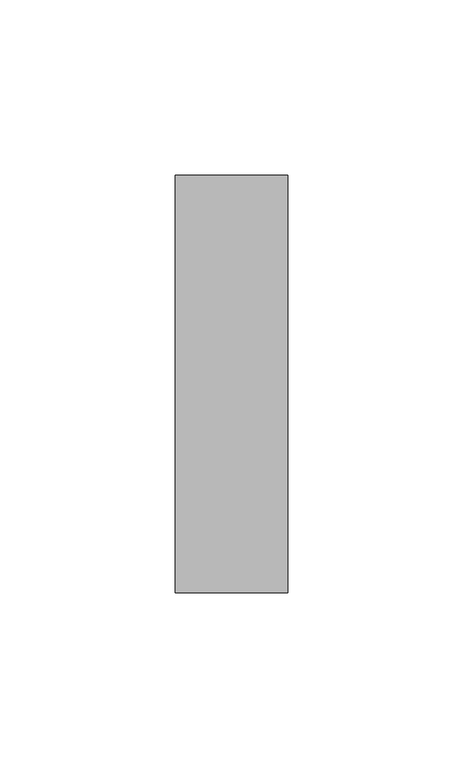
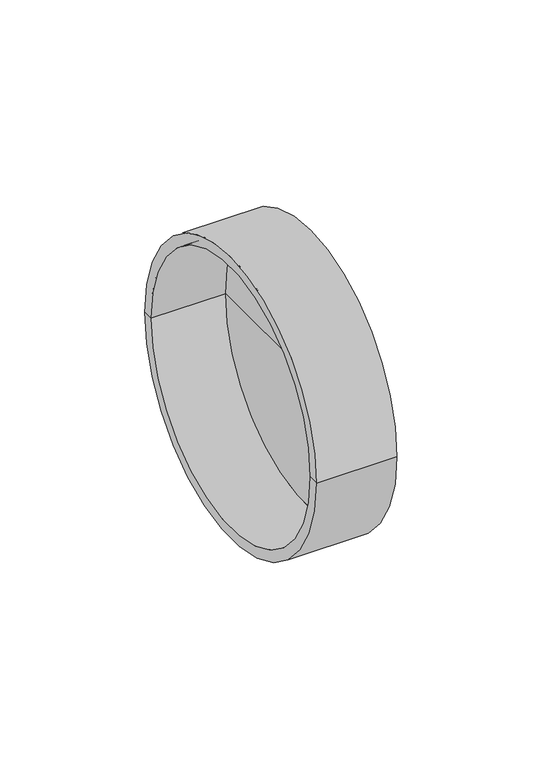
"""IFC4 building model written with IfcOpenShell, lengths in millimetres: pipe fitting geometry, NLRS_52_UN_PIF_PVC afsluitkap_PipeLife : Grijs, var. DN/OD."""

from ifc_helpers import new_model, si_unit, frame, origin, place, context, project, spatial, polyline, circle_curve, source, transform, mapped, element, save
from ifc_brep_helpers import plane_surface, cylinder_surface, revolved_surface, advanced_brep


def pipe_fitting_7a2b44dd(model_context):
    return source(origin(), model_context, "Body", "AdvancedBrep", [
        advanced_brep(
        [(0.0, 0.0, 0.0), (0.0, 55.15, 0.0), (0.0, -55.15, 0.0), (2.2, -59.5, 0.0), (2.2, 59.5, 0.0), (2.2, 0.0, 0.0), (-29.8, -59.5, 0.0), (-29.8, 59.5, 0.0), (-29.8, -55.15, 0.0), (-29.8, 55.15, 0.0)],
        [
            (0, 1),
            (1, 2, circle_curve(frame((0.0, 0.0, 0.0), z_axis=(-1.0, 0.0, 0.0), x_axis=(0.0, 1.0, 0.0)), 55.15)),
            (2, 0),
            (2, 1, circle_curve(frame((0.0, 0.0, 0.0), z_axis=(-1.0, 0.0, 0.0), x_axis=(0.0, 1.0, 0.0)), 55.15)),
            (3, 4, circle_curve(frame((2.2, 0.0, 0.0), z_axis=(1.0, 0.0, 0.0), x_axis=(0.0, 1.0, 0.0)), 59.5)),
            (4, 5),
            (5, 3),
            (4, 3, circle_curve(frame((2.2, 0.0, 0.0), z_axis=(1.0, 0.0, 0.0), x_axis=(0.0, 1.0, 0.0)), 59.5)),
            (6, 7, circle_curve(frame((-29.8, 0.0, 0.0), z_axis=(1.0, 0.0, 0.0), x_axis=(0.0, 1.0, 0.0)), 59.5)),
            (7, 4),
            (3, 6),
            (7, 6, circle_curve(frame((-29.8, 0.0, 0.0), z_axis=(1.0, 0.0, 0.0), x_axis=(0.0, 1.0, 0.0)), 59.5)),
            (8, 9, circle_curve(frame((-29.8, 0.0, 0.0), z_axis=(1.0, 0.0, 0.0), x_axis=(0.0, 1.0, 0.0)), 55.15)),
            (9, 7),
            (6, 8),
            (9, 8, circle_curve(frame((-29.8, 0.0, 0.0), z_axis=(1.0, 0.0, 0.0), x_axis=(0.0, 1.0, 0.0)), 55.15)),
            (1, 9),
            (8, 2),
        ],
        [
            plane_surface(frame((0.0, 0.0, 0.0), z_axis=(-1.0, 0.0, 0.0), x_axis=(0.0, 1.0, 0.0))),
            plane_surface(frame((2.2, 0.0, 0.0), z_axis=(1.0, 0.0, 0.0), x_axis=(0.0, 1.0, 0.0))),
            cylinder_surface(frame((-15.0, 0.0, 0.0), z_axis=(-1.0, 0.0, 0.0), x_axis=(0.0, 1.0, 0.0)), 59.5),
            plane_surface(frame((-29.8, 0.0, 0.0), z_axis=(-1.0, 0.0, 0.0), x_axis=(0.0, 1.0, 0.0))),
            revolved_surface(polyline([(-29.8, 55.15, 0.0), (0.0, 55.15, 0.0)]), (-15.0, 0.0, 0.0), (-1.0, 0.0, 0.0)),
        ],
        [
            (0, [[1, 2, 3]]),
            (0, [[-3, 4, -1]]),
            (1, [[5, 6, 7]]),
            (1, [[8, -7, -6]]),
            (2, [[9, 10, -5, 11]]),
            (2, [[12, -11, -8, -10]]),
            (3, [[13, 14, -9, 15]]),
            (3, [[16, -15, -12, -14]]),
            (4, [[-2, 17, -13, 18]]),
            (4, [[-4, -18, -16, -17]]),
        ],
    ),
    ])


if __name__ == "__main__":
    model = new_model("IFC4")
    model_context = context("Model", 3, world=origin())
    ifc_project = project(units=[si_unit("LENGTHUNIT", "METRE", prefix="MILLI")], contexts=[model_context])
    site = spatial("IfcSite", under=ifc_project)
    building = spatial("IfcBuilding", under=site)
    placement = place(None, origin())
    pipe_fitting_shape = pipe_fitting_7a2b44dd(model_context)
    element("IfcPipeFitting", 1, ObjectType="NLRS_52_UN_PIF_PVC afsluitkap_PipeLife : Grijs, var. DN/OD", at=placement, inside=building, context=model_context, shape_type="MappedRepresentation", body=[
        mapped(pipe_fitting_shape, transform((0.0, 0.0, 0.0), x_axis=(1.0, 0.0, 0.0), y_axis=(0.0, 1.0, 0.0), z_axis=(0.0, 0.0, 1.0))),
    ])
    save(model, "model.ifc")
